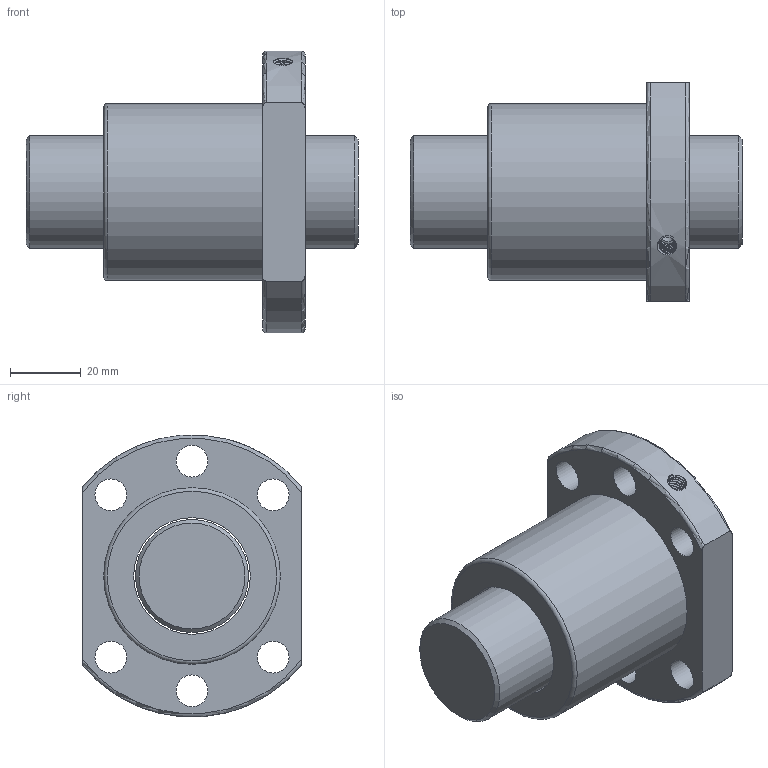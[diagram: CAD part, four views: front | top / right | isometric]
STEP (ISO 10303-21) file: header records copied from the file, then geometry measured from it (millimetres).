
FILE_DESCRIPTION(/* description */ ('Unknown','CAx-IF Rec.Pracs.---Representation and Presentation of Product Manufacturing Information (PMI)---4.0---2014-10-13','CAx-IF Rec.Pracs.---3D Tessellated Geometry---0.4---2014-09-14','2;1'),/* implementation_level */ '2;1');
FILE_NAME(/* name */ 'SFU03206',/* time_stamp */ '2020-12-07T16:49:24+08:00',/* author */ ('Unknown'),/* organization */ ('Unknown'),/* preprocessor_version */ 'ST-DEVELOPER v16.7',/* originating_system */ 'Solid Edge',/* authorisation */ 'Unknown');
FILE_SCHEMA (('AP242_MANAGED_MODEL_BASED_3D_ENGINEERING_MIM_LF { 1 0 10303 442 1 1 4 }'));
Length unit declared in the file: millimetre
Products named in the file (1): SFU03206
Bounding box: 94 x 62 x 79.74 mm (x, y, z)
Volume: 162910.4 mm3; surface area: 35400.1 mm2
Topology: 2 solids, 2 shells, 31 faces, 73 edges, 48 vertices
Faces by surface type: cylinder 14, plane 8, torus 5, cone 2, bspline 2
Full cylindrical faces by diameter (mm): 4 x1, 9 x6, 32 x1, 33 x1, 50 x1
Entity records: 3240 total; most frequent: CARTESIAN_POINT 2490, DIRECTION 138, ORIENTED_EDGE 118, AXIS2_PLACEMENT_3D 66, EDGE_LOOP 62, FACE_BOUND 62, EDGE_CURVE 59, VERTEX_POINT 47
